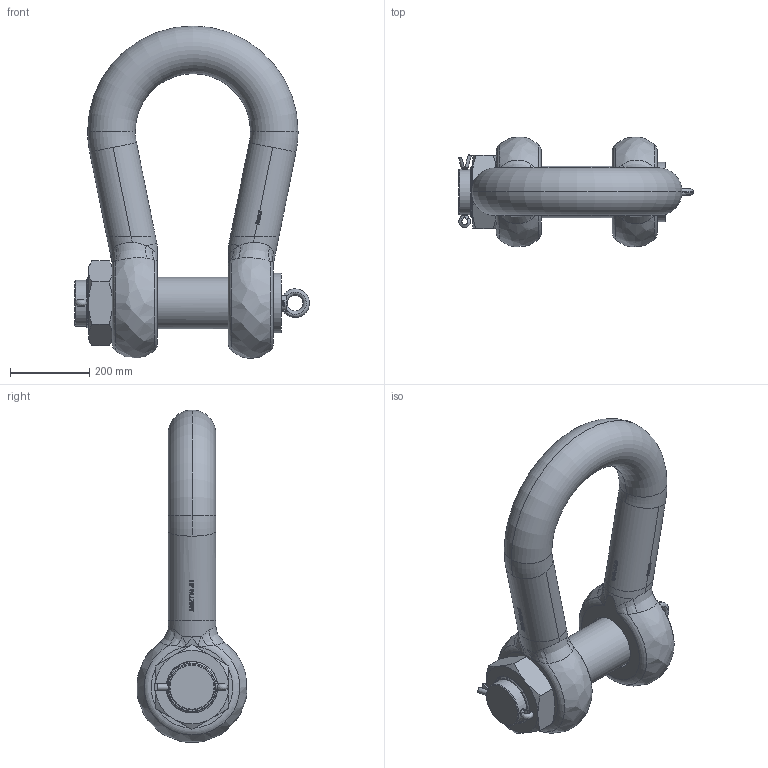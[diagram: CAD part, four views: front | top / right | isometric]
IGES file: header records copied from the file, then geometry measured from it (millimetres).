
Global section: file name: No Iges File Name specified; native system: Autodesk Inventor 2009; preprocessor: AutoDesk Inventor Iges Exporter R2009; author: Jack; date: 20091209.212726; units: millimetre
Bounding box: 591.27 x 276.12 x 836.06 mm (x, y, z)
Volume: 31071026.2 mm3; surface area: 1274610.3 mm2
Topology: 5 solids, 5 shells, 835 faces, 2243 edges, 1473 vertices
Faces by surface type: plane 398, bspline 247, cylinder 110, revolution 40, torus 20, cone 20
Full cylindrical faces by diameter (mm): 130 x13
